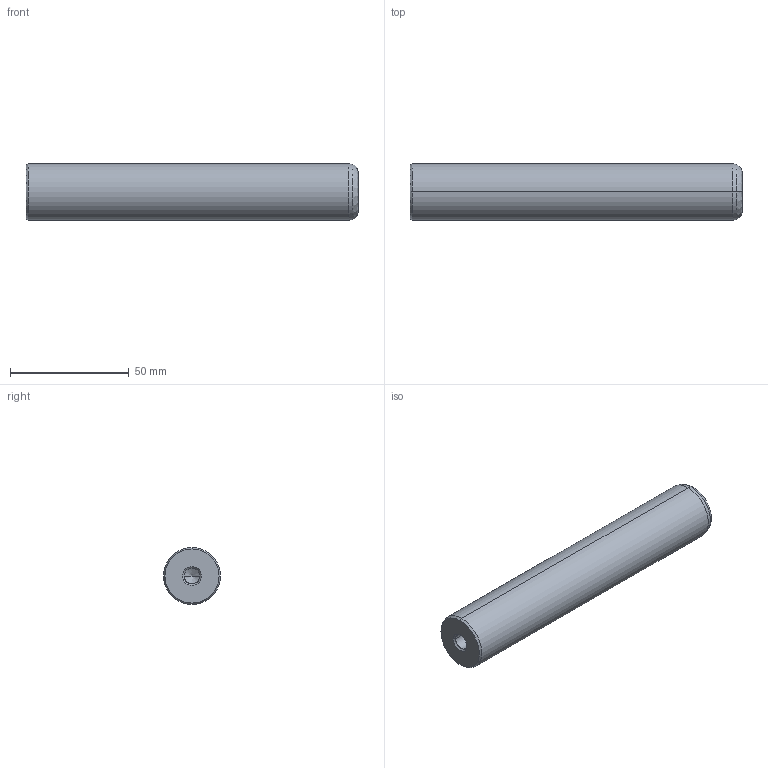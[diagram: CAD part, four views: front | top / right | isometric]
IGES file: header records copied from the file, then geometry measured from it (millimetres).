
Start section: START RECORD GO HERE.
Global section: file name: 720-24x140.igs; native system: DASSAULT SYSTEMES CATIA V5 R20 - www.3ds.com; preprocessor: CATIA Version 5 Release 20 ; author: Utente; organization: NB04-ASUS; date: 20210101.135401; units: millimetre
Bounding box: 140 x 24 x 24 mm (x, y, z)
Surface area: 12295.8 mm2 (no closed solid volume)
Topology: 0 solids, 0 shells, 22 faces, 120 edges, 116 vertices
Faces by surface type: revolution 20, plane 2
